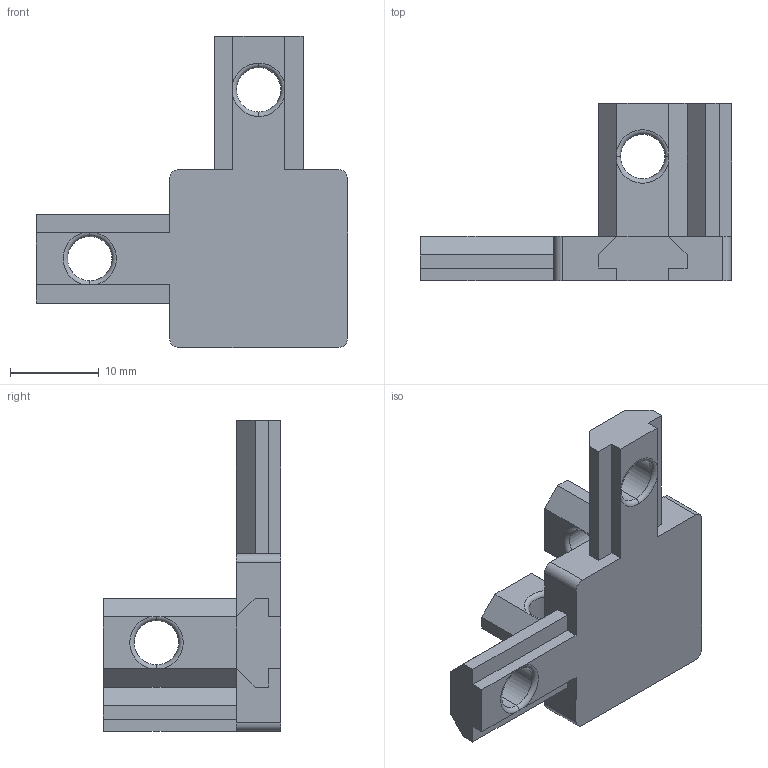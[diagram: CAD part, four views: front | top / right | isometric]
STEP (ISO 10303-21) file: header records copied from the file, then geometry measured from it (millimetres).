
FILE_DESCRIPTION (( 'STEP AP203' ), '1' );
FILE_NAME ('2065.STEP', '2016-01-22T07:55:36', ( '' ), ( '' ), 'SwSTEP 2.0', 'SolidWorks 2014', '' );
FILE_SCHEMA (( 'CONFIG_CONTROL_DESIGN' ));
Length unit declared in the file: millimetre
Products named in the file (1): 2065
Bounding box: 35 x 20 x 35 mm (x, y, z)
Volume: 3978.6 mm3; surface area: 2973 mm2
Topology: 1 solids, 1 shells, 82 faces, 248 edges, 160 vertices
Faces by surface type: plane 54, torus 16, cylinder 12
Entity records: 2893 total; most frequent: CARTESIAN_POINT 583, ORIENTED_EDGE 496, DIRECTION 446, EDGE_CURVE 248, VECTOR 160, VERTEX_POINT 160, LINE 160, AXIS2_PLACEMENT_3D 143
